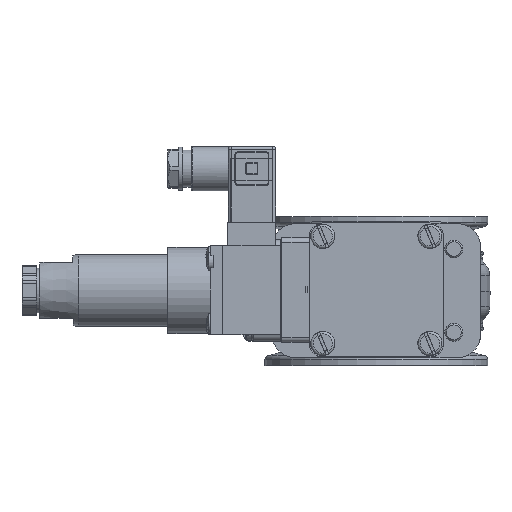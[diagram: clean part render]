
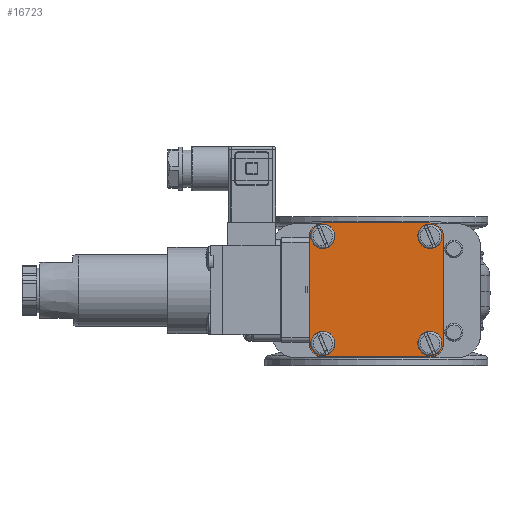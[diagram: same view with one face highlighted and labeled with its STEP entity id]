
A CAD part, top view. The second image highlights one B-rep face of the part: STEP entity #16723.
In plain terms, the highlighted planar face has unit normal (0, 0, 1) as drawn and (-1, 0, 0) by its records, which use the part's own axes.
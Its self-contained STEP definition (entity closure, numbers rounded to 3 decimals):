
#11704=LINE('',#53902,#14174);
#11705=LINE('',#53907,#14175);
#11706=LINE('',#53911,#14176);
#11707=LINE('',#53915,#14177);
#14174=VECTOR('',#44333,1.);
#14175=VECTOR('',#44336,1.);
#14176=VECTOR('',#44339,1.);
#14177=VECTOR('',#44342,1.);
#16723=ADVANCED_FACE('',(#20714,#20715,#20716,#20717,#20718),#18427,.T.);
#18427=PLANE('',#41129);
#20714=FACE_BOUND('',#21691,.T.);
#20715=FACE_BOUND('',#21692,.T.);
#20716=FACE_BOUND('',#21693,.T.);
#20717=FACE_BOUND('',#21694,.T.);
#20718=FACE_BOUND('',#21695,.T.);
#21691=EDGE_LOOP('',(#24620));
#21692=EDGE_LOOP('',(#24621));
#21693=EDGE_LOOP('',(#24622,#24623,#24624,#24625,#24626,#24627,#24628,#24629));
#21694=EDGE_LOOP('',(#24630));
#21695=EDGE_LOOP('',(#24631));
#24620=ORIENTED_EDGE('',*,*,#35930,.T.);
#24621=ORIENTED_EDGE('',*,*,#35931,.T.);
#24622=ORIENTED_EDGE('',*,*,#35932,.T.);
#24623=ORIENTED_EDGE('',*,*,#35933,.T.);
#24624=ORIENTED_EDGE('',*,*,#35934,.T.);
#24625=ORIENTED_EDGE('',*,*,#35935,.T.);
#24626=ORIENTED_EDGE('',*,*,#35936,.T.);
#24627=ORIENTED_EDGE('',*,*,#35937,.T.);
#24628=ORIENTED_EDGE('',*,*,#35938,.T.);
#24629=ORIENTED_EDGE('',*,*,#35939,.T.);
#24630=ORIENTED_EDGE('',*,*,#35940,.T.);
#24631=ORIENTED_EDGE('',*,*,#35941,.T.);
#32792=VERTEX_POINT('',#53899);
#32793=VERTEX_POINT('',#53901);
#32794=VERTEX_POINT('',#53903);
#32795=VERTEX_POINT('',#53904);
#32796=VERTEX_POINT('',#53906);
#32797=VERTEX_POINT('',#53908);
#32798=VERTEX_POINT('',#53910);
#32799=VERTEX_POINT('',#53912);
#32800=VERTEX_POINT('',#53914);
#32801=VERTEX_POINT('',#53916);
#32802=VERTEX_POINT('',#53919);
#32803=VERTEX_POINT('',#53921);
#35930=EDGE_CURVE('',#32792,#32792,#39958,.T.);
#35931=EDGE_CURVE('',#32793,#32793,#39959,.T.);
#35932=EDGE_CURVE('',#32794,#32795,#11704,.T.);
#35933=EDGE_CURVE('',#32795,#32796,#39960,.T.);
#35934=EDGE_CURVE('',#32796,#32797,#11705,.T.);
#35935=EDGE_CURVE('',#32797,#32798,#39961,.T.);
#35936=EDGE_CURVE('',#32798,#32799,#11706,.T.);
#35937=EDGE_CURVE('',#32799,#32800,#39962,.T.);
#35938=EDGE_CURVE('',#32800,#32801,#11707,.T.);
#35939=EDGE_CURVE('',#32801,#32794,#39963,.T.);
#35940=EDGE_CURVE('',#32802,#32802,#39964,.T.);
#35941=EDGE_CURVE('',#32803,#32803,#39965,.T.);
#39958=CIRCLE('',#41121,2.8);
#39959=CIRCLE('',#41122,2.8);
#39960=CIRCLE('',#41123,4.5);
#39961=CIRCLE('',#41124,4.5);
#39962=CIRCLE('',#41125,4.5);
#39963=CIRCLE('',#41126,4.5);
#39964=CIRCLE('',#41127,2.8);
#39965=CIRCLE('',#41128,2.8);
#41121=AXIS2_PLACEMENT_3D('',#53898,#44329,#44330);
#41122=AXIS2_PLACEMENT_3D('',#53900,#44331,#44332);
#41123=AXIS2_PLACEMENT_3D('',#53905,#44334,#44335);
#41124=AXIS2_PLACEMENT_3D('',#53909,#44337,#44338);
#41125=AXIS2_PLACEMENT_3D('',#53913,#44340,#44341);
#41126=AXIS2_PLACEMENT_3D('',#53917,#44343,#44344);
#41127=AXIS2_PLACEMENT_3D('',#53918,#44345,#44346);
#41128=AXIS2_PLACEMENT_3D('',#53920,#44347,#44348);
#41129=AXIS2_PLACEMENT_3D('',#53922,#44349,#44350);
#44329=DIRECTION('',(1.,0.,0.));
#44330=DIRECTION('',(0.,0.,1.));
#44331=DIRECTION('',(1.,0.,0.));
#44332=DIRECTION('',(0.,0.,1.));
#44333=DIRECTION('',(0.,1.,0.));
#44334=DIRECTION('',(-1.,0.,0.));
#44335=DIRECTION('',(0.,0.,1.));
#44336=DIRECTION('',(0.,0.,-1.));
#44337=DIRECTION('',(-1.,0.,0.));
#44338=DIRECTION('',(0.,1.,0.));
#44339=DIRECTION('',(0.,-1.,0.));
#44340=DIRECTION('',(-1.,0.,0.));
#44341=DIRECTION('',(0.,0.,-1.));
#44342=DIRECTION('',(0.,0.,1.));
#44343=DIRECTION('',(-1.,0.,0.));
#44344=DIRECTION('',(0.,0.,1.));
#44345=DIRECTION('',(1.,0.,0.));
#44346=DIRECTION('',(0.,0.,1.));
#44347=DIRECTION('',(1.,0.,0.));
#44348=DIRECTION('',(0.,0.,1.));
#44349=DIRECTION('',(-1.,0.,0.));
#44350=DIRECTION('',(0.,0.,1.));
#53898=CARTESIAN_POINT('',(0.,4.5,4.5));
#53899=CARTESIAN_POINT('',(0.,4.5,7.3));
#53900=CARTESIAN_POINT('',(0.,40.5,40.5));
#53901=CARTESIAN_POINT('',(0.,40.5,43.3));
#53902=CARTESIAN_POINT('',(0.,4.5,45.));
#53903=CARTESIAN_POINT('',(0.,4.5,45.));
#53904=CARTESIAN_POINT('',(0.,40.5,45.));
#53905=CARTESIAN_POINT('',(0.,40.5,40.5));
#53906=CARTESIAN_POINT('',(0.,45.,40.5));
#53907=CARTESIAN_POINT('',(0.,45.,40.5));
#53908=CARTESIAN_POINT('',(0.,45.,4.5));
#53909=CARTESIAN_POINT('',(0.,40.5,4.5));
#53910=CARTESIAN_POINT('',(0.,40.5,0.));
#53911=CARTESIAN_POINT('',(0.,40.5,0.));
#53912=CARTESIAN_POINT('',(0.,4.5,0.));
#53913=CARTESIAN_POINT('',(0.,4.5,4.5));
#53914=CARTESIAN_POINT('',(0.,0.,4.5));
#53915=CARTESIAN_POINT('',(0.,0.,4.5));
#53916=CARTESIAN_POINT('',(0.,0.,40.5));
#53917=CARTESIAN_POINT('',(0.,4.5,40.5));
#53918=CARTESIAN_POINT('',(0.,40.5,4.5));
#53919=CARTESIAN_POINT('',(0.,40.5,7.3));
#53920=CARTESIAN_POINT('',(0.,4.5,40.5));
#53921=CARTESIAN_POINT('',(0.,4.5,43.3));
#53922=CARTESIAN_POINT('',(0.,40.5,40.5));
